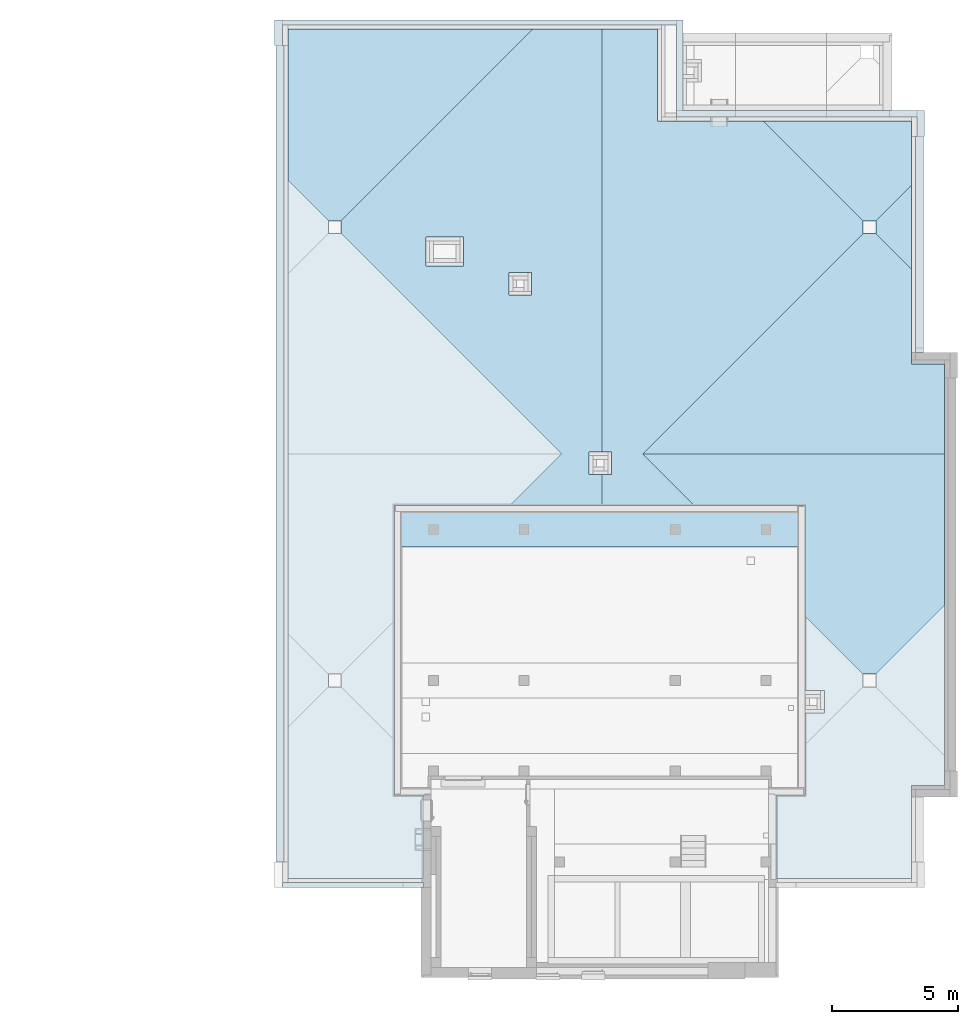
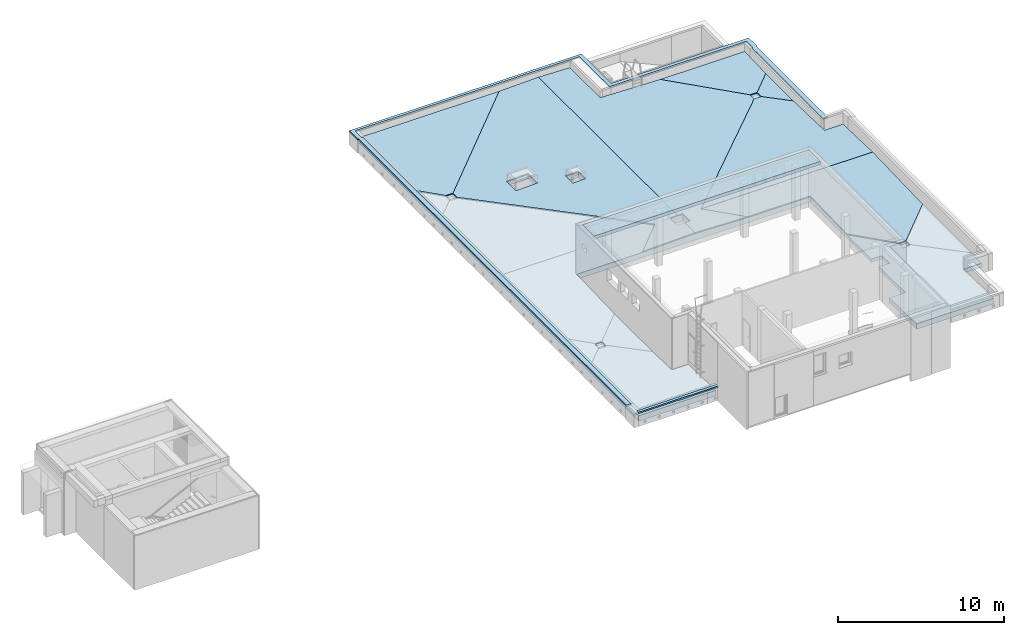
# One storey, part 2 of 17: 10 slabs, 1 element without a shape of its own.
"""IFC4 building model written with IfcOpenShell, lengths in metres."""

from ifc_helpers import new_model, entity, si_unit, converted_unit, derived_unit, frame, frame_2d, origin, origin_with_axes, place, context, subcontext, project, spatial, polyline, rectangle, outline, extrude, clip, bounded_halfspace, material, layer, layer_set, layer_usage, element, aggregate, save


model = new_model("IFC4")

# Units and contexts
model_context = context("Model", 3, precision=1e-05, world=origin())
body_context = subcontext(model_context, "Body", "Model", "MODEL_VIEW")
ifc_project = project(units=[si_unit("LENGTHUNIT", "METRE"), si_unit("AREAUNIT", "SQUARE_METRE"), si_unit("VOLUMEUNIT", "CUBIC_METRE"), si_unit("MASSUNIT", "GRAM", prefix="KILO"), converted_unit("PLANEANGLEUNIT", "DEGREE", entity("IfcPlaneAngleMeasure", 0.0174532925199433), si_unit("PLANEANGLEUNIT", "RADIAN"), dimensions=[0, 0, 0, 0, 0, 0, 0]), derived_unit("THERMALTRANSMITTANCEUNIT", [(si_unit("POWERUNIT", "WATT"), 1), (si_unit("THERMODYNAMICTEMPERATUREUNIT", "KELVIN"), -1), (si_unit("LENGTHUNIT", "METRE"), -2)]), derived_unit("VOLUMETRICFLOWRATEUNIT", [(si_unit("LENGTHUNIT", "METRE"), 3), (converted_unit("TIMEUNIT", "hour", entity("IfcTimeMeasure", 3600.0), si_unit("TIMEUNIT", "SECOND"), dimensions=[0, 0, 1, 0, 0, 0, 0]), -1), (si_unit("LENGTHUNIT", "METRE"), -1)])], contexts=[model_context])

# Site, building, storey
site_placement = place(None, origin())
site = spatial("IfcSite", under=ifc_project, at=site_placement, Name="3. ASŘ", CompositionType="ELEMENT")
building_placement = place(site_placement, origin())
building = spatial("IfcBuilding", under=site, at=building_placement, Name="Pavilon C", CompositionType="ELEMENT")
storey_placement = place(building_placement, frame((0.0, 0.0, 13.8)))
storey = spatial("IfcBuildingStorey", under=building, at=storey_placement, Name="Půdorys 5.NP", CompositionType="ELEMENT", Elevation=13.8)

# Slab
ifc_material_1 = material(Name="RZT")
slab_1_placement = place(storey_placement, frame((29.45, 12.5, 3.85)))
element("IfcSlab", 1, at=slab_1_placement, inside=storey, material=ifc_material_1, PredefinedType="FLOOR", context=body_context, shape_type="SweptSolid", body=[
    extrude(rectangle(XDim=1.4, YDim=15.8, at=frame_2d((-7.9, 0.700000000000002), x_axis=(0.0, 1.0))), frame((15.8, 0.0, 0.0), z_axis=(0.0, 0.0, 1.0), x_axis=(1.0, 0.0, 0.0)), (0.0, 0.0, 1.0), 0.25),
])

# Roof, slabs
roof_placement = place(storey_placement, frame((0.0, 0.0, -13.8)))
roof = element("IfcRoof", 2, at=roof_placement, inside=storey, PredefinedType="NOTDEFINED")
ifc_material_2 = material(Name="ASFALTOVÁ HYDROIZOLACE")
ifc_layer_1 = layer(ifc_material_2, 0.01)
ifc_material_3 = material(Name="KAČÍREK")
ifc_layer_2 = layer(ifc_material_3, 0.06)
ifc_layer_set_1 = layer_set([ifc_layer_1, ifc_layer_2])
ifc_layer_usage_1 = layer_usage(ifc_layer_set_1, "AXIS3", "POSITIVE", 0.0)
slab_2_placement = place(roof_placement, frame((39.0600000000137, 7.44999999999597, 13.9800000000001)))
slab_2 = element("IfcSlab", 3, at=slab_2_placement, material=ifc_layer_usage_1, PredefinedType="ROOF", context=body_context, shape_type="SweptSolid", body=[
    extrude(outline(polyline([(0.668750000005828, -2.20974371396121), (0.66875000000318, 2.18223134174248), (-1.64124999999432, 4.49327060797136), (-2.14125000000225, 4.49327060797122), (-4.86124999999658, 1.77204688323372), (-4.86124999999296, -4.2606660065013), (7.10874999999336, -4.26066600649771), (5.05874999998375, -2.20974371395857), (0.668750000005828, -2.20974371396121)])), frame((7.1087499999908, 4.49125000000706, 0.134737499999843), z_axis=(-1.8006696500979e-14, -0.0299865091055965, 0.999550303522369), x_axis=(-1.0, 6.00493256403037e-13, 0.0)), (0.0, -0.0299865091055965, 0.999550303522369), 0.0700314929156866),
])
ifc_material_4 = material(Name="ASFALTOVÁ HYDROIZOLACE")
ifc_layer_3 = layer(ifc_material_4, 0.01)
ifc_material_5 = material(Name="KAČÍREK")
ifc_layer_4 = layer(ifc_material_5, 0.06)
ifc_layer_set_2 = layer_set([ifc_layer_3, ifc_layer_4])
ifc_layer_usage_2 = layer_usage(ifc_layer_set_2, "AXIS3", "POSITIVE", 0.0)
slab_3_placement = place(roof_placement, frame((37.4499999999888, 14.15, 13.9800000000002)))
slab_3 = element("IfcSlab", 4, at=slab_3_placement, material=ifc_layer_usage_2, PredefinedType="ROOF", context=body_context, shape_type="SweptSolid", body=[
    extrude(outline(polyline([(6.40807692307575, -2.88822190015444), (7.63307692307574, -2.88822190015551), (7.63307692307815, 0.773424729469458), (5.58307692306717, -1.27749756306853), (-3.16692307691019, 7.47643905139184), (-3.66692307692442, 7.47643905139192), (-7.63692307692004, 3.5046529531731), (-7.6369230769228, -0.687232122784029), (-11.2869230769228, -0.687232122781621), (-11.2869230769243, -2.88822190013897), (5.50807692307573, -2.88822190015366), (5.50807692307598, -2.51305318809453), (6.408076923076, -2.51305318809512), (6.40807692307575, -2.88822190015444)])), frame((2.88692307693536, 7.63307692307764, 0.224192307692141), z_axis=(0.0299865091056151, 1.97865380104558e-14, 0.999550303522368), x_axis=(6.59847998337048e-13, -1.0, 0.0)), (0.0, -0.0299865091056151, 0.999550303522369), 0.0700314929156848),
])
ifc_material_6 = material(Name="ASFALTOVÁ HYDROIZOLACE")
ifc_layer_5 = layer(ifc_material_6, 0.01)
ifc_material_7 = material(Name="KAČÍREK")
ifc_layer_6 = layer(ifc_material_7, 0.06)
ifc_layer_set_3 = layer_set([ifc_layer_5, ifc_layer_6])
ifc_layer_usage_3 = layer_usage(ifc_layer_set_3, "AXIS3", "POSITIVE", 0.0)
slab_4_placement = place(roof_placement, frame((43.8400000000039, 25.45, 13.98)))
slab_4 = element("IfcSlab", 5, at=slab_4_placement, material=ifc_layer_usage_3, PredefinedType="ROOF", context=body_context, shape_type="SweptSolid", body=[
    extrude(outline(polyline([(-1.84599999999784, 0.45220335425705), (-1.84599999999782, -2.09894388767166), (4.04399999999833, -2.09894388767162), (0.0739999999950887, 1.87284221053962), (-0.425999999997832, 1.87284221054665), (-1.84599999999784, 0.45220335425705)])), frame((4.04399999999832, 1.8720000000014, 0.0561600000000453), z_axis=(-2.30067269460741e-16, -0.0299865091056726, 0.999550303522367), x_axis=(-1.0, 7.67235921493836e-15, 0.0)), (0.0, -0.0299865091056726, 0.999550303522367), 0.070031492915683),
])
ifc_material_8 = material(Name="ASFALTOVÁ HYDROIZOLACE")
ifc_layer_7 = layer(ifc_material_8, 0.01)
ifc_material_9 = material(Name="KAČÍREK")
ifc_layer_8 = layer(ifc_material_9, 0.06)
ifc_layer_set_4 = layer_set([ifc_layer_7, ifc_layer_8])
ifc_layer_usage_4 = layer_usage(ifc_layer_set_4, "AXIS3", "POSITIVE", 0.0)
slab_5_placement = place(roof_placement, frame((48.3099999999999, 23.5299999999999, 13.98)))
slab_5 = element("IfcSlab", 6, at=slab_5_placement, material=ifc_layer_usage_4, PredefinedType="ROOF", context=body_context, shape_type="SweptSolid", body=[
    extrude(outline(polyline([(-0.249999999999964, 0.710319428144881), (-1.67000000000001, -0.710319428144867), (1.66999999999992, -0.710319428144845), (0.250000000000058, 0.710319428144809), (-0.249999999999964, 0.710319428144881)])), frame((0.710000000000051, 1.67000000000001, 0.0213000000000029), z_axis=(-0.0299865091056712, 1.5178103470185e-16, 0.999550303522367), x_axis=(5.06164402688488e-15, 1.0, 0.0)), (0.0, -0.0299865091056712, 0.999550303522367), 0.0700314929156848),
])
ifc_material_10 = material(Name="ASFALTOVÁ HYDROIZOLACE")
ifc_layer_9 = layer(ifc_material_10, 0.01)
ifc_material_11 = material(Name="KAČÍREK")
ifc_layer_10 = layer(ifc_material_11, 0.06)
ifc_layer_set_5 = layer_set([ifc_layer_9, ifc_layer_10])
ifc_layer_usage_5 = layer_usage(ifc_layer_set_5, "AXIS3", "POSITIVE", 0.0)
slab_6_placement = place(roof_placement, frame((39.0600000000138, 16.200000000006, 13.98)))
slab_6 = element("IfcSlab", 7, at=slab_6_placement, material=ifc_layer_usage_5, PredefinedType="ROOF", context=body_context, shape_type="SweptSolid", body=[
    extrude(outline(polyline([(-9.03999999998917, -4.56919760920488), (2.92999999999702, -4.56919760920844), (2.92999999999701, -0.997591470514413), (1.62999999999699, -0.997591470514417), (1.62999999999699, 2.7641001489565), (0.20999999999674, 4.18473900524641), (-0.289999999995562, 4.18473900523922), (-9.03999999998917, -4.56919760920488)])), frame((9.0399999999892, 4.56714285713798, 0.125485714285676), z_axis=(1.37191815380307e-16, 0.0299865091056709, 0.999550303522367), x_axis=(1.0, -4.57511792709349e-15, 0.0)), (0.0, -0.0299865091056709, 0.999550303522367), 0.0700314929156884),
])
ifc_material_12 = material(Name="ASFALTOVÁ HYDROIZOLACE")
ifc_layer_11 = layer(ifc_material_12, 0.01)
ifc_material_13 = material(Name="KAČÍREK")
ifc_layer_12 = layer(ifc_material_13, 0.06)
ifc_layer_set_6 = layer_set([ifc_layer_11, ifc_layer_12])
ifc_layer_usage_6 = layer_usage(ifc_layer_set_6, "AXIS3", "POSITIVE", 0.0)
slab_7_placement = place(roof_placement, frame((24.97, 25.4499999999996, 13.98)))
slab_7 = element("IfcSlab", 8, at=slab_7_placement, material=ifc_layer_usage_6, PredefinedType="ROOF", context=body_context, shape_type="SweptSolid", body=[
    extrude(outline(polyline([(-7.04399999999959, -4.24991117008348), (2.69599999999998, -4.24991117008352), (2.696, 1.75278822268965), (1.0759999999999, 3.37351705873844), (0.575999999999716, 3.3735170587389), (-7.04399999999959, -4.24991117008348)])), frame((2.696, 3.37200000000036, 0.101160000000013), z_axis=(1.26669953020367e-16, -0.0299865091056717, 0.999550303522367), x_axis=(-1.0, -4.22423138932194e-15, 0.0)), (0.0, -0.0299865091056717, 0.999550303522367), 0.0700314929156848),
])
ifc_material_14 = material(Name="ASFALTOVÁ HYDROIZOLACE")
ifc_layer_13 = layer(ifc_material_14, 0.01)
ifc_material_15 = material(Name="KAČÍREK")
ifc_layer_14 = layer(ifc_material_15, 0.06)
ifc_layer_set_7 = layer_set([ifc_layer_13, ifc_layer_14])
ifc_layer_usage_7 = layer_usage(ifc_layer_set_7, "AXIS3", "POSITIVE", 0.0)
slab_8_placement = place(roof_placement, frame((27.0900000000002, 14.15, 13.98)))
slab_8 = element("IfcSlab", 9, at=slab_8_placement, material=ifc_layer_usage_7, PredefinedType="ROOF", context=body_context, shape_type="SweptSolid", body=[
    extrude(outline(polyline([(3.21105263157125, 6.79568757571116), (-5.53894736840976, -1.95824903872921), (-7.58894736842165, 0.0926732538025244), (-7.58894736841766, -3.56897337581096), (-6.36394736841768, -3.56897337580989), (-6.36394736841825, -3.04373717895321), (-5.46394736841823, -3.04373717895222), (-5.46394736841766, -3.5689733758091), (11.3310526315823, -3.56897337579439), (11.3310526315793, -0.827740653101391), (3.71105263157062, 6.79568757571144), (3.21105263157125, 6.79568757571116)]), holes=[polyline([(1.91105263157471, 3.43417591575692), (3.06105263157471, 3.43417591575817), (3.06105263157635, 1.93350106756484), (1.91105263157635, 1.93350106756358), (1.91105263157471, 3.43417591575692)]), polyline([(1.66105263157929, -0.76771365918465), (0.761052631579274, -0.767713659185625), (0.761052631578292, 0.132691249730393), (1.66105263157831, 0.132691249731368), (1.66105263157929, -0.76771365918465)])]), frame((6.79263157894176, 7.58894736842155, 0.203778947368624), z_axis=(-0.0299865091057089, 3.26700122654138e-14, 0.999550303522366), x_axis=(1.08949034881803e-12, 1.0, 0.0)), (0.0, -0.0299865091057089, 0.999550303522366), 0.0700314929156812),
])
aggregate(roof, [slab_2, slab_3, slab_4, slab_5, slab_6, slab_7, slab_8])

# Slabs
ifc_material_16 = material(Name="SPÁDOVÉ KLÍNY PIR 3%")
slab_9_placement = place(storey_placement, frame((24.97, -0.670000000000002, -3.63797880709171e-15)))
element("IfcSlab", 10, at=slab_9_placement, inside=storey, material=ifc_material_16, PredefinedType="FLOOR", context=body_context, shape_type="Clipping", body=[
    clip(clip(extrude(outline(polyline([(0.0, 7.13000000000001), (0.0, 0.0), (10.8699999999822, 1.73622538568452e-11), (2.12, 8.75000000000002), (1.62000000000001, 8.75000000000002), (0.0, 7.13000000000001)])), frame((3.63797880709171e-15, 16.87, 0.0), z_axis=(0.0, 0.0, 1.0), x_axis=(1.0, 0.0, 0.0)), (0.0, 0.0, 1.0), 0.49080000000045), bounded_halfspace(frame((2.92199999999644, 21.7960000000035, 3.63797880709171e-15), z_axis=(-3.20873516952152e-17, -7.39753902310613e-17, 1.0), x_axis=(1.0, 0.0, 0.0)), True, origin_with_axes(), polyline([(3.63797880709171e-15, 24.0), (3.63797880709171e-15, 16.87), (10.8699999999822, 16.8700000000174), (2.12, 25.62), (1.62000000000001, 25.62), (3.63797880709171e-15, 24.0)]))), bounded_halfspace(frame((2.92199999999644, 21.7960000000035, 0.294719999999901), z_axis=(2.98028675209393e-17, -0.0299865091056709, -0.999550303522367), x_axis=(-1.0, -9.93875859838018e-16, 0.0)), True, origin_with_axes(), polyline([(3.63797880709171e-15, 24.0), (3.63797880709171e-15, 16.87), (10.8699999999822, 16.8700000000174), (2.12, 25.62), (1.62000000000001, 25.62), (3.63797880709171e-15, 24.0)]))),
    clip(clip(extrude(outline(polyline([(0.0, 3.73999999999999), (0.0, 0.0), (1.62000000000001, 1.62), (1.62000000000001, 2.12), (0.0, 3.73999999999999)])), frame((7.27595761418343e-15, 24.0, 0.0), z_axis=(0.0, 0.0, 1.0), x_axis=(1.0, 0.0, 0.0)), (0.0, 0.0, 1.0), 0.49080000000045), bounded_halfspace(frame((0.810000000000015, 25.87, 3.63797880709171e-15), z_axis=(-3.20873516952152e-17, -7.39753902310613e-17, 1.0), x_axis=(1.0, 0.0, 0.0)), True, origin_with_axes(), polyline([(7.27595761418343e-15, 27.74), (7.27595761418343e-15, 24.0), (1.62000000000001, 25.62), (1.62000000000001, 26.12), (7.27595761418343e-15, 27.74)]))), bounded_halfspace(frame((0.810000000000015, 25.87, 0.204300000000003), z_axis=(-0.029986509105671, -8.58686823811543e-16, -0.999550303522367), x_axis=(-2.8635771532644e-14, 1.0, 0.0)), True, origin_with_axes(), polyline([(7.27595761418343e-15, 27.74), (7.27595761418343e-15, 24.0), (1.62000000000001, 25.62), (1.62000000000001, 26.12), (7.27595761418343e-15, 27.74)]))),
    clip(clip(extrude(outline(polyline([(9.73999999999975, 7.61999999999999), (0.0, 7.61999999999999), (0.0, 1.61999999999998), (1.62000000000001, 0.0), (2.11999999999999, 0.0), (9.73999999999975, 7.61999999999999)])), frame((7.27595761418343e-15, 26.12, 0.0), z_axis=(0.0, 0.0, 1.0), x_axis=(1.0, 0.0, 0.0)), (0.0, 0.0, 1.0), 0.49080000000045), bounded_halfspace(frame((2.69599999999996, 29.492, 3.63797880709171e-15), z_axis=(-3.20873516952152e-17, -7.39753902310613e-17, 1.0), x_axis=(1.0, 0.0, 0.0)), True, origin_with_axes(), polyline([(9.73999999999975, 33.74), (7.27595761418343e-15, 33.74), (7.27595761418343e-15, 27.74), (1.62000000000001, 26.12), (2.12, 26.12), (9.73999999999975, 33.74)]))), bounded_halfspace(frame((2.69599999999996, 29.492, 0.28116), z_axis=(-1.25083615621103e-15, 0.0299865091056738, -0.999550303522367), x_axis=(1.0, 4.17132968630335e-14, 0.0)), True, origin_with_axes(), polyline([(9.73999999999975, 33.74), (7.27595761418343e-15, 33.74), (7.27595761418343e-15, 27.74), (1.62000000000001, 26.12), (2.12, 26.12), (9.73999999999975, 33.74)]))),
    clip(clip(extrude(outline(polyline([(0.0, 5.99999999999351), (0.0, 0.0), (5.38, 0.0), (5.38, 3.32), (4.23, 3.32), (4.23, 5.5099999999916), (2.11999999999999, 7.62000000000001), (1.62000000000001, 7.62000000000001), (0.0, 5.99999999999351)])), origin_with_axes(), (0.0, 0.0, 1.0), 0.49080000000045), bounded_halfspace(frame((2.86999999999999, 4.17374999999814, 1.81898940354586e-15), z_axis=(-3.20873516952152e-17, -7.39753902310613e-17, 1.0), x_axis=(1.0, 0.0, 0.0)), True, origin_with_axes(), polyline([(0.0, 5.99999999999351), (0.0, 0.0), (5.38, 0.0), (5.38, 3.32), (4.23, 3.32), (4.23, 5.5099999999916), (2.11999999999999, 7.62000000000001), (1.62000000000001, 7.62000000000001), (0.0, 5.99999999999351)]))), bounded_halfspace(frame((2.86999999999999, 4.17374999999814, 0.283387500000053), z_axis=(3.24335528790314e-16, -0.0299865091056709, -0.999550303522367), x_axis=(-1.0, -1.08160482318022e-14, 0.0)), True, origin_with_axes(), polyline([(0.0, 5.99999999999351), (0.0, 0.0), (5.38, 0.0), (5.38, 3.32), (4.23, 3.32), (4.23, 5.5099999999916), (2.11999999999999, 7.62000000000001), (1.62000000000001, 7.62000000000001), (0.0, 5.99999999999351)]))),
    clip(clip(extrude(outline(polyline([(0.0, 3.74000000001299), (0.0, 0.0), (1.62, 1.6200000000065), (1.62, 2.1200000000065), (0.0, 3.74000000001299)])), frame((3.63797880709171e-15, 5.99999999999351, 0.0), z_axis=(0.0, 0.0, 1.0), x_axis=(1.0, 0.0, 0.0)), (0.0, 0.0, 1.0), 0.49080000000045), bounded_halfspace(frame((0.810000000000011, 7.87000000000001, 1.81898940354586e-15), z_axis=(-3.20873516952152e-17, -7.39753902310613e-17, 1.0), x_axis=(1.0, 0.0, 0.0)), True, origin_with_axes(), polyline([(3.63797880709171e-15, 9.7400000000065), (3.63797880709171e-15, 5.99999999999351), (1.62000000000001, 7.62000000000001), (1.62000000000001, 8.12000000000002), (3.63797880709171e-15, 9.7400000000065)]))), bounded_halfspace(frame((0.810000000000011, 7.87000000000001, 0.204300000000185), z_axis=(-0.0299865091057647, 8.53068301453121e-14, -0.999550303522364), x_axis=(2.84484031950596e-12, 1.0, 0.0)), True, origin_with_axes(), polyline([(3.63797880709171e-15, 9.7400000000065), (3.63797880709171e-15, 5.99999999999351), (1.62000000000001, 7.62000000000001), (1.62000000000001, 8.12000000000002), (3.63797880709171e-15, 9.7400000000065)]))),
    clip(clip(extrude(outline(polyline([(4.23, 2.11000000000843), (4.23, 6.69999999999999), (8.81999999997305, 6.69999999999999), (10.8699999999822, 8.75000000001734), (0.0, 8.74999999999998), (0.0, 1.62000000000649), (1.62, 1.81898940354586e-15), (2.11999999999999, 0.0), (4.23, 2.11000000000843)])), frame((3.63797880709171e-15, 8.12000000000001, 0.0), z_axis=(0.0, 0.0, 1.0), x_axis=(1.0, 0.0, 0.0)), (0.0, 0.0, 1.0), 0.49080000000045), bounded_halfspace(frame((3.9862499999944, 12.448750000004, 3.63797880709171e-15), z_axis=(-3.20873516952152e-17, -7.39753902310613e-17, 1.0), x_axis=(1.0, 0.0, 0.0)), True, origin_with_axes(), polyline([(4.23, 10.2300000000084), (4.23, 14.82), (8.81999999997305, 14.82), (10.8699999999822, 16.8700000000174), (3.63797880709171e-15, 16.87), (3.63797880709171e-15, 9.7400000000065), (1.62000000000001, 8.12000000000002), (2.11999999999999, 8.12000000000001), (4.23, 10.2300000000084)]))), bounded_halfspace(frame((3.9862499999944, 12.448750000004, 0.309862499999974), z_axis=(-4.52476579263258e-14, 0.0299865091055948, -0.999550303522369), x_axis=(1.0, 1.50893382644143e-12, 0.0)), True, origin_with_axes(), polyline([(4.23, 10.2300000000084), (4.23, 14.82), (8.81999999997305, 14.82), (10.8699999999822, 16.8700000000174), (3.63797880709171e-15, 16.87), (3.63797880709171e-15, 9.7400000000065), (1.62000000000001, 8.12000000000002), (2.11999999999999, 8.12000000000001), (4.23, 10.2300000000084)]))),
    clip(clip(extrude(outline(polyline([(2.11000000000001, 0.0), (2.11000000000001, 4.72000000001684), (0.0, 2.61000000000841), (0.0, 2.11000000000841), (2.11000000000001, 0.0)])), frame((2.11999999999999, 5.5099999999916, 0.0), z_axis=(0.0, 0.0, 1.0), x_axis=(1.0, 0.0, 0.0)), (0.0, 0.0, 1.0), 0.49080000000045), bounded_halfspace(frame((3.17499999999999, 7.87000000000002, 3.63797880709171e-15), z_axis=(-3.20873516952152e-17, -7.39753902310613e-17, 1.0), x_axis=(1.0, 0.0, 0.0)), True, origin_with_axes(), polyline([(4.23, 5.5099999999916), (4.23, 10.2300000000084), (2.11999999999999, 8.12000000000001), (2.11999999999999, 7.62000000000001), (4.23, 5.5099999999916)]))), bounded_halfspace(frame((3.17499999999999, 7.87000000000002, 0.211650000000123), z_axis=(0.0299865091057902, 6.96947549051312e-16, -0.999550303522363), x_axis=(2.32420368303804e-14, -1.0, 0.0)), True, origin_with_axes(), polyline([(4.23, 5.5099999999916), (4.23, 10.2300000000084), (2.11999999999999, 8.12000000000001), (2.11999999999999, 7.62000000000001), (4.23, 5.5099999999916)]))),
    clip(clip(extrude(outline(polyline([(6.69999999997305, 0.0), (10.3599999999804, 0.0), (10.3599999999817, 1.22499999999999), (9.83499999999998, 1.22499999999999), (9.83499999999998, 2.12500000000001), (10.3599999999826, 2.12500000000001), (10.3599999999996, 18.92), (7.61999999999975, 18.92), (0.0, 11.3), (0.0, 10.8), (8.74999999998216, 2.05000000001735), (6.69999999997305, 0.0)]), holes=[polyline([(7.56000000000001, 9.25), (7.56000000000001, 8.34999999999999), (6.65999999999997, 8.34999999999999), (6.65999999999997, 9.25), (7.56000000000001, 9.25)]), polyline([(4.86000000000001, 10.65), (4.86000000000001, 9.5), (3.35999999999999, 9.5), (3.35999999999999, 10.65), (4.86000000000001, 10.65)])]), frame((2.12, 14.82, 0.0), z_axis=(0.0, 0.0, 1.0), x_axis=(1.0, 0.0, 0.0)), (0.0, 0.0, 1.0), 0.49080000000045), bounded_halfspace(frame((8.91263157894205, 22.408947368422, 3.63797880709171e-15), z_axis=(-3.20873516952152e-17, -7.39753902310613e-17, 1.0), x_axis=(1.0, 0.0, 0.0)), True, origin_with_axes(), polyline([(8.81999999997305, 14.82), (12.4799999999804, 14.82), (12.4799999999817, 16.045), (11.955, 16.045), (11.955, 16.945), (12.4799999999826, 16.945), (12.4799999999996, 33.74), (9.73999999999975, 33.74), (2.12, 26.12), (2.12, 25.62), (10.8699999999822, 16.8700000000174), (8.81999999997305, 14.82)]))), bounded_halfspace(frame((8.91263157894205, 22.408947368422, 0.383778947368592), z_axis=(0.0299865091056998, -1.82079123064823e-14, -0.999550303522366), x_axis=(-6.07203467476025e-13, -1.0, 0.0)), True, origin_with_axes(), polyline([(8.81999999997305, 14.82), (12.4799999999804, 14.82), (12.4799999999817, 16.045), (11.955, 16.045), (11.955, 16.945), (12.4799999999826, 16.945), (12.4799999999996, 33.74), (9.73999999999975, 33.74), (2.12, 26.12), (2.12, 25.62), (10.8699999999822, 16.8700000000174), (8.81999999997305, 14.82)]))),
    clip(clip(extrude(outline(polyline([(0.0, 0.0), (3.66000000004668, 0.0), (1.6100000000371, 2.05000000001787), (10.3600000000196, 10.8), (10.3600000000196, 11.3), (6.39000000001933, 15.27), (2.20000000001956, 15.27), (2.20000000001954, 18.92), (1.91867002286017e-11, 18.92), (2.15368345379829e-12, 2.12500000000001), (0.375000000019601, 2.12500000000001), (0.375000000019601, 1.22499999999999), (1.24418875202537e-12, 1.22499999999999), (0.0, 0.0)])), frame((12.4799999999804, 14.82, 0.0), z_axis=(0.0, 0.0, 1.0), x_axis=(1.0, 0.0, 0.0)), (0.0, 0.0, 1.0), 0.49080000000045), bounded_halfspace(frame((15.3669230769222, 22.4530769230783, 3.63797880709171e-15), z_axis=(-3.20873516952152e-17, -7.39753902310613e-17, 1.0), x_axis=(1.0, 0.0, 0.0)), True, origin_with_axes(), polyline([(12.4799999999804, 14.82), (16.1400000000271, 14.82), (14.0900000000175, 16.8700000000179), (22.84, 25.62), (22.84, 26.12), (18.8699999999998, 30.09), (14.68, 30.09), (14.68, 33.74), (12.4799999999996, 33.74), (12.4799999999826, 16.945), (12.855, 16.945), (12.855, 16.045), (12.4799999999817, 16.045), (12.4799999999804, 14.82)]))), bounded_halfspace(frame((15.3669230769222, 22.4530769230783, 0.404192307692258), z_axis=(-0.0299865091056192, -1.1829899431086e-14, -0.999550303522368), x_axis=(-3.94507389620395e-13, 1.0, 0.0)), True, origin_with_axes(), polyline([(12.4799999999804, 14.82), (16.1400000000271, 14.82), (14.0900000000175, 16.8700000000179), (22.84, 25.62), (22.84, 26.12), (18.8699999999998, 30.09), (14.68, 30.09), (14.68, 33.74), (12.4799999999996, 33.74), (12.4799999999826, 16.945), (12.855, 16.945), (12.855, 16.045), (12.4799999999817, 16.045), (12.4799999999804, 14.82)]))),
    clip(clip(extrude(outline(polyline([(5.89000000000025, 1.41999999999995), (5.89000000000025, 3.96999999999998), (0.0, 3.96999999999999), (3.97000000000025, 0.0), (4.47000000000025, 1.45519152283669e-14), (5.89000000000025, 1.41999999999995)])), frame((18.8699999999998, 26.12, 0.0), z_axis=(0.0, 0.0, 1.0), x_axis=(1.0, 0.0, 0.0)), (0.0, 0.0, 1.0), 0.49080000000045), bounded_halfspace(frame((22.9139999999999, 27.992, 5.45696821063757e-15), z_axis=(-3.20873516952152e-17, -7.39753902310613e-17, 1.0), x_axis=(1.0, 0.0, 0.0)), True, origin_with_axes(), polyline([(24.76, 27.54), (24.76, 30.09), (18.8699999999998, 30.09), (22.84, 26.12), (23.34, 26.12), (24.76, 27.54)]))), bounded_halfspace(frame((22.9139999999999, 27.992, 0.236160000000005), z_axis=(4.98784314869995e-16, 0.0299865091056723, -0.999550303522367), x_axis=(1.0, -1.66336239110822e-14, 0.0)), True, origin_with_axes(), polyline([(24.76, 27.54), (24.76, 30.09), (18.8699999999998, 30.09), (22.84, 26.12), (23.34, 26.12), (24.76, 27.54)]))),
    clip(clip(extrude(outline(polyline([(1.42000000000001, 0.0), (1.42000000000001, 3.33999999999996), (2.18278728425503e-14, 1.92000000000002), (0.0, 1.42), (1.42000000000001, 0.0)])), frame((23.34, 24.2, 0.0), z_axis=(0.0, 0.0, 1.0), x_axis=(1.0, 0.0, 0.0)), (0.0, 0.0, 1.0), 0.49080000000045), bounded_halfspace(frame((24.05, 25.87, 5.45696821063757e-15), z_axis=(-3.20873516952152e-17, -7.39753902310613e-17, 1.0), x_axis=(1.0, 0.0, 0.0)), True, origin_with_axes(), polyline([(24.76, 24.2), (24.76, 27.54), (23.34, 26.12), (23.34, 25.62), (24.76, 24.2)]))), bounded_halfspace(frame((24.05, 25.87, 0.201299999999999), z_axis=(0.0299865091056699, 3.617937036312e-15, -0.999550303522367), x_axis=(1.20652158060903e-13, -1.0, 0.0)), True, origin_with_axes(), polyline([(24.76, 24.2), (24.76, 27.54), (23.34, 26.12), (23.34, 25.62), (24.76, 24.2)]))),
    clip(clip(extrude(outline(polyline([(11.9699999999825, 0.0), (11.9699999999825, 3.57000000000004), (10.6699999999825, 3.57000000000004), (10.6699999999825, 7.33000000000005), (9.24999999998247, 8.75000000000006), (8.74999999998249, 8.75000000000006), (0.0, 1.79206836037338e-11), (11.9699999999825, 0.0)])), frame((14.0900000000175, 16.8699999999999, 0.0), z_axis=(0.0, 0.0, 1.0), x_axis=(1.0, 0.0, 0.0)), (0.0, 0.0, 1.0), 0.49080000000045), bounded_halfspace(frame((23.1300000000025, 21.4371428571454, 3.63797880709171e-15), z_axis=(-3.20873516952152e-17, -7.39753902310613e-17, 1.0), x_axis=(1.0, 0.0, 0.0)), True, origin_with_axes(), polyline([(26.06, 16.8699999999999), (26.06, 20.44), (24.76, 20.44), (24.76, 24.2), (23.34, 25.62), (22.84, 25.62), (14.0900000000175, 16.8700000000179), (26.06, 16.8699999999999)]))), bounded_halfspace(frame((23.1300000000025, 21.4371428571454, 0.305485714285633), z_axis=(-6.51191455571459e-17, -0.029986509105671, -0.999550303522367), x_axis=(-1.0, 2.17161475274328e-15, 0.0)), True, origin_with_axes(), polyline([(26.06, 16.8699999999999), (26.06, 20.44), (24.76, 20.44), (24.76, 24.2), (23.34, 25.62), (22.84, 25.62), (14.0900000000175, 16.8700000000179), (26.06, 16.8699999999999)]))),
    clip(clip(extrude(outline(polyline([(2.05000000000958, 6.69999999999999), (6.43999999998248, 6.69999999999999), (6.43999999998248, 2.31000000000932), (8.74999999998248, 0.0), (9.24999999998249, 2.18278728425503e-14), (11.9699999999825, 2.72000000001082), (11.9699999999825, 8.74999999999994), (0.0, 8.75000000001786), (2.05000000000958, 6.69999999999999)])), frame((14.0900000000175, 8.12000000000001, 0.0), z_axis=(0.0, 0.0, 1.0), x_axis=(1.0, 0.0, 0.0)), (0.0, 0.0, 1.0), 0.49080000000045), bounded_halfspace(frame((21.1987500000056, 12.6112500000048, 3.63797880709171e-15), z_axis=(-3.20873516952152e-17, -7.39753902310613e-17, 1.0), x_axis=(1.0, 0.0, 0.0)), True, origin_with_axes(), polyline([(16.1400000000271, 14.82), (20.53, 14.82), (20.53, 10.4300000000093), (22.84, 8.12000000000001), (23.34, 8.12000000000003), (26.06, 10.8400000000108), (26.06, 16.8699999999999), (14.0900000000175, 16.8700000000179), (16.1400000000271, 14.82)]))), bounded_halfspace(frame((21.1987500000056, 12.6112500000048, 0.314737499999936), z_axis=(3.99830871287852e-14, 0.0299865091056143, -0.999550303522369), x_axis=(1.0, -1.33336918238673e-12, 0.0)), True, origin_with_axes(), polyline([(16.1400000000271, 14.82), (20.53, 14.82), (20.53, 10.4300000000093), (22.84, 8.12000000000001), (23.34, 8.12000000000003), (26.06, 10.8400000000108), (26.06, 16.8699999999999), (14.0900000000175, 16.8700000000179), (16.1400000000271, 14.82)]))),
    clip(clip(extrude(outline(polyline([(2.72000000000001, 0.0), (2.72000000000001, 5.9400000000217), (2.18278728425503e-14, 3.22000000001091), (0.0, 2.72000000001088), (2.72000000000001, 0.0)])), frame((23.34, 4.89999999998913, 0.0), z_axis=(0.0, 0.0, 1.0), x_axis=(1.0, 0.0, 0.0)), (0.0, 0.0, 1.0), 0.49080000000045), bounded_halfspace(frame((24.7, 7.87, 3.63797880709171e-15), z_axis=(-3.20873516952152e-17, -7.39753902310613e-17, 1.0), x_axis=(1.0, 0.0, 0.0)), True, origin_with_axes(), polyline([(26.06, 4.89999999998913), (26.06, 10.8400000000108), (23.34, 8.12000000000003), (23.34, 7.62000000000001), (26.06, 4.89999999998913)]))), bounded_halfspace(frame((24.7, 7.87, 0.220800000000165), z_axis=(0.0299865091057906, -6.6695071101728e-16, -0.999550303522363), x_axis=(-2.22416923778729e-14, -1.0, 0.0)), True, origin_with_axes(), polyline([(26.06, 4.89999999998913), (26.06, 10.8400000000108), (23.34, 8.12000000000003), (23.34, 7.62000000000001), (26.06, 4.89999999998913)]))),
    clip(clip(extrude(outline(polyline([(1.15, 5.30999999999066), (1.15, 3.32), (0.0, 3.32), (0.0, 0.0), (5.38, 0.0), (5.38, 3.7), (6.68, 3.7), (6.68, 4.89999999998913), (3.95999999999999, 7.62000000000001), (3.46, 7.62000000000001), (1.15, 5.30999999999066)])), frame((19.38, 0.0, 0.0), z_axis=(0.0, 0.0, 1.0), x_axis=(1.0, 0.0, 0.0)), (0.0, 0.0, 1.0), 0.49080000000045), bounded_halfspace(frame((22.764, 3.94899999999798, 3.63797880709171e-15), z_axis=(-3.20873516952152e-17, -7.39753902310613e-17, 1.0), x_axis=(1.0, 0.0, 0.0)), True, origin_with_axes(), polyline([(20.53, 5.30999999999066), (20.53, 3.32), (19.38, 3.32), (19.38, 0.0), (24.76, 0.0), (24.76, 3.7), (26.06, 3.7), (26.06, 4.89999999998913), (23.34, 7.62000000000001), (22.84, 7.62000000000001), (20.53, 5.30999999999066)]))), bounded_halfspace(frame((22.764, 3.94899999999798, 0.290130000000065), z_axis=(5.02903814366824e-17, -0.029986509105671, -0.999550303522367), x_axis=(-1.0, -1.67710023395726e-15, 0.0)), True, origin_with_axes(), polyline([(20.53, 5.30999999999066), (20.53, 3.32), (19.38, 3.32), (19.38, 0.0), (24.76, 0.0), (24.76, 3.7), (26.06, 3.7), (26.06, 4.89999999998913), (23.34, 7.62000000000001), (22.84, 7.62000000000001), (20.53, 5.30999999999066)]))),
    clip(clip(extrude(outline(polyline([(0.0, 5.12000000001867), (0.0, 2.16000000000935), (0.770000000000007, 2.16000000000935), (0.770000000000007, 1.26000000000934), (0.0, 1.26000000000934), (0.0, 0.0), (2.31, 2.31000000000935), (2.31, 2.81000000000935), (0.0, 5.12000000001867)])), frame((20.53, 5.30999999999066, 0.0), z_axis=(0.0, 0.0, 1.0), x_axis=(1.0, 0.0, 0.0)), (0.0, 0.0, 1.0), 0.49080000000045), bounded_halfspace(frame((21.3, 7.44500000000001, 3.63797880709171e-15), z_axis=(-3.20873516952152e-17, -7.39753902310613e-17, 1.0), x_axis=(1.0, 0.0, 0.0)), True, origin_with_axes(), polyline([(20.53, 10.4300000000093), (20.53, 7.47000000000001), (21.3, 7.47000000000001), (21.3, 6.57), (20.53, 6.57), (20.53, 5.30999999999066), (22.84, 7.62000000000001), (22.84, 8.12000000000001), (20.53, 10.4300000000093)]))), bounded_halfspace(frame((21.3, 7.44500000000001, 0.226200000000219), z_axis=(-0.0299865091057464, 4.47534415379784e-14, -0.999550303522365), x_axis=(1.49245253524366e-12, 1.0, 0.0)), True, origin_with_axes(), polyline([(20.53, 10.4300000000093), (20.53, 7.47000000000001), (21.3, 7.47000000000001), (21.3, 6.57), (20.53, 6.57), (20.53, 5.30999999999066), (22.84, 7.62000000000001), (22.84, 8.12000000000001), (20.53, 10.4300000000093)]))),
])
ifc_material_17 = material(Name="MINERÁLNÍ VATA")
slab_10_placement = place(storey_placement, frame((24.45, -1.02, 0.85)))
element("IfcSlab", 11, at=slab_10_placement, inside=storey, material=ifc_material_17, PredefinedType="FLOOR", context=body_context, shape_type="SweptSolid", body=[
    extrude(outline(polyline([(25.43, 28.8), (25.43, 20.22), (25.75, 20.22), (25.75, 28.8), (25.8, 28.8), (25.8, 29.82), (16.2, 29.82), (16.2, 33.42), (0.0, 33.42), (0.0, 32.4), (0.05, 32.4), (0.0499999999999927, 1.46169571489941e-15), (0.299999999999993, 0.0), (0.369999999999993, 8.37633392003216e-16), (0.37, 32.4), (0.3, 32.4), (0.3, 33.22), (15.95, 33.22), (15.95, 29.57), (25.5, 29.57), (25.5, 28.8), (25.43, 28.8)])), frame((0.0, 1.02, 0.0), z_axis=(0.0, 0.0, 1.0), x_axis=(1.0, 0.0, 0.0)), (0.0, 0.0, 1.0), 0.1),
    extrude(rectangle(XDim=5.60000000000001, YDim=0.2, at=frame_2d((2.8, 0.1), x_axis=(1.0, 0.0))), frame((0.299999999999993, 0.0, 0.0), z_axis=(0.0, 0.0, 1.0), x_axis=(1.0, 0.0, 0.0)), (0.0, 0.0, 1.0), 0.1),
])

save(model, "model.ifc")
